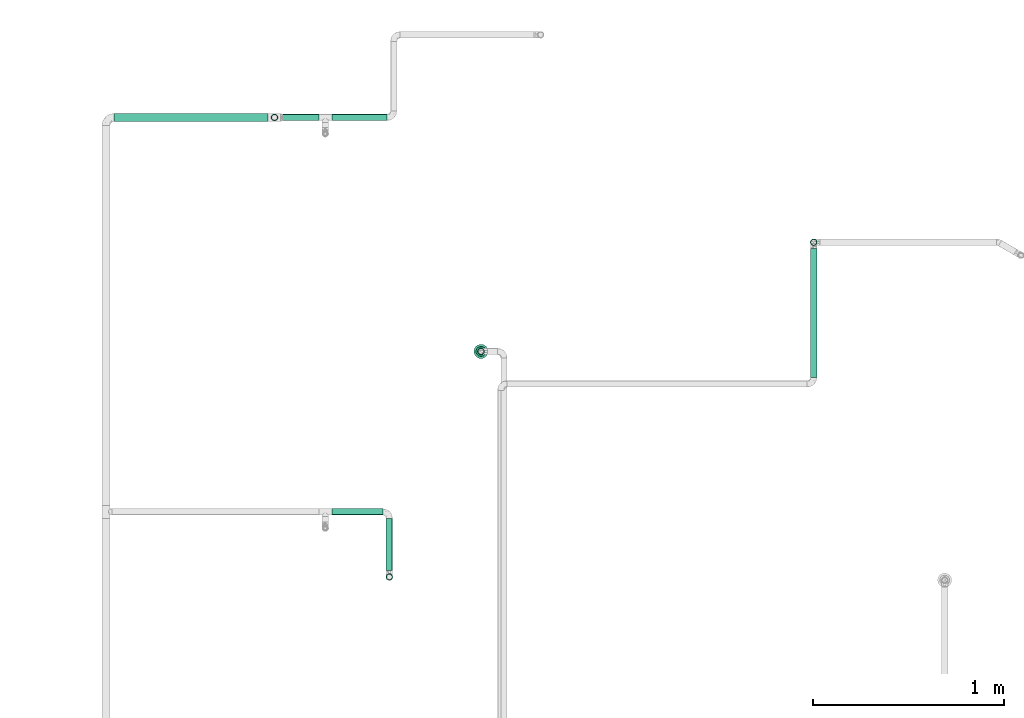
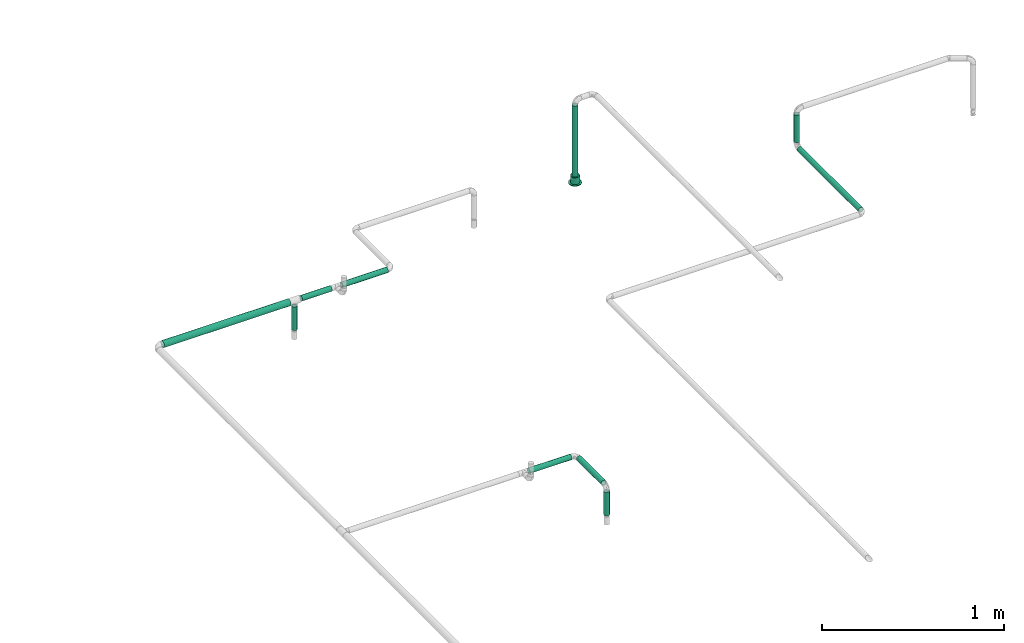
# One storey, part 22 of 95: 10 flow segments, 1 flow terminal.
"""IFC2X3 building model written with IfcOpenShell, lengths in millimetres."""

from ifc_helpers import new_model, entity, si_unit, converted_unit, derived_unit, direction, frame, origin_with_axes, origin_2d_with_axis, place, context, subcontext, project, spatial, hollow_circle, extrude, open_shell, surface_model, source, transform, mapped, type_object, element, save


model = new_model("IFC2X3")

# Units and contexts
model_context = context("Model", 3, precision=0.01, world=frame((0.0, 4.29681676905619e-09, 0.0)), true_north=direction((4.01073788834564e-13, 1.0)))
plan_context = context("Plan", 3, precision=0.01, world=frame((0.0, 4.29681676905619e-09, 0.0)), true_north=direction((4.01073788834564e-13, 1.0)))
body_context = subcontext(model_context, "Body", "Model", "MODEL_VIEW")
ifc_project = project(units=[converted_unit("PLANEANGLEUNIT", "DEGREE", entity("IfcPositiveLengthMeasure", 0.0174532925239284), si_unit("PLANEANGLEUNIT", "RADIAN"), dimensions=[0, 0, 0, 0, 0, 0, 0]), si_unit("AREAUNIT", "SQUARE_METRE"), si_unit("LENGTHUNIT", "METRE", prefix="MILLI"), si_unit("MASSUNIT", "GRAM", prefix="KILO"), si_unit("POWERUNIT", "WATT"), si_unit("PRESSUREUNIT", "PASCAL"), si_unit("FORCEUNIT", "NEWTON", prefix="KILO"), si_unit("ELECTRICVOLTAGEUNIT", "VOLT"), si_unit("ELECTRICCURRENTUNIT", "AMPERE"), si_unit("THERMODYNAMICTEMPERATUREUNIT", "DEGREE_CELSIUS"), si_unit("TIMEUNIT", "SECOND"), si_unit("VOLUMEUNIT", "CUBIC_METRE"), derived_unit("LINEARVELOCITYUNIT", [(si_unit("LENGTHUNIT", "METRE"), 1), (si_unit("TIMEUNIT", "SECOND"), -1)]), derived_unit("VOLUMETRICFLOWRATEUNIT", [(si_unit("VOLUMEUNIT", "CUBIC_METRE"), 1), (si_unit("TIMEUNIT", "SECOND"), -1)]), derived_unit("THERMALTRANSMITTANCEUNIT", [(si_unit("POWERUNIT", "WATT"), 1), (si_unit("THERMODYNAMICTEMPERATUREUNIT", "KELVIN"), -1), (si_unit("AREAUNIT", "SQUARE_METRE"), -1)]), derived_unit("SOUNDPRESSUREUNIT", [(si_unit("PRESSUREUNIT", "PASCAL"), 1)])], contexts=[model_context, plan_context])

# Site, building, storey
site_placement = place(None, frame((0.0, -4.29681676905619e-09, 0.0), z_axis=(0.0, 0.0, 1.0), x_axis=(1.0, 0.0, 0.0)))
site = spatial("IfcSite", under=ifc_project, at=site_placement, CompositionType="ELEMENT")
building_placement = place(site_placement, frame((0.0, 4.29681676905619e-09, 0.0), z_axis=(0.0, 0.0, 1.0), x_axis=(1.0, 0.0, 0.0)))
building = spatial("IfcBuilding", under=site, at=building_placement, Name="mc-building", CompositionType="ELEMENT")
storey_placement = place(building_placement, frame((0.0, 0.0, 210900.0), z_axis=(0.0, 0.0, 1.0), x_axis=(1.0, 0.0, 0.0)))
storey = spatial("IfcBuildingStorey", under=building, at=storey_placement, Name="Nivå F", CompositionType="ELEMENT", Elevation=210900.0)

# Flow segments
pipe_segment_type = type_object("IfcPipeSegmentType", Name="Stålrør normaltykke", PredefinedType="RIGIDSEGMENT")
shared_shape_1 = source(origin_with_axes(), body_context, "Body", "SweptSolid", [
    extrude(hollow_circle(Radius=16.9, WallThickness=2.0, at=origin_2d_with_axis()), frame((0.0, 0.0, 0.0), z_axis=(1.0, 0.0, 0.0), x_axis=(0.0, 1.0, 0.0)), (0.0, 0.0, 1.0), 511.9),
])
flow_segment_1_placement = place(storey_placement, frame((522678.57312, 455598.0, 4281.20000000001), z_axis=(0.0, -1.0, 0.0), x_axis=(0.0, 0.0, -1.0)))
element("IfcFlowSegment", 1, at=flow_segment_1_placement, inside=storey, type_object=pipe_segment_type, Name="Stålrør normaltykke", context=body_context, shape_type="MappedRepresentation", body=[
    mapped(shared_shape_1, transform((0.0, 0.0, 0.0), scale=1.0)),
])
shared_shape_2 = source(origin_with_axes(), body_context, "Body", "SweptSolid", [
    extrude(hollow_circle(Radius=16.9, WallThickness=2.0, at=origin_2d_with_axis()), frame((0.0, 0.0, 0.0), z_axis=(1.0, 0.0, 0.0), x_axis=(0.0, 1.0, 0.0)), (0.0, 0.0, 1.0), 266.8),
])
flow_segment_2_placement = place(storey_placement, frame((521899.21856, 454760.05824, 2600.0), z_axis=(0.0, 0.0, 1.0), x_axis=(1.0, 0.0, 0.0)))
element("IfcFlowSegment", 2, at=flow_segment_2_placement, inside=storey, type_object=pipe_segment_type, Name="Stålrør normaltykke", context=body_context, shape_type="MappedRepresentation", body=[
    mapped(shared_shape_2, transform((0.0, 0.0, 0.0), scale=1.0)),
])
shared_shape_3 = source(origin_with_axes(), body_context, "Body", "SweptSolid", [
    extrude(hollow_circle(Radius=16.9, WallThickness=2.0, at=origin_2d_with_axis()), frame((0.0, 0.0, 0.0), z_axis=(1.0, 0.0, 0.0), x_axis=(0.0, 1.0, 0.0)), (0.0, 0.0, 1.0), 158.6),
])
flow_segment_3_placement = place(storey_placement, frame((521600.0, 456820.05824, 2409.35200000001), z_axis=(1.0, 0.0, 0.0), x_axis=(0.0, 0.0, 1.0)))
element("IfcFlowSegment", 3, at=flow_segment_3_placement, inside=storey, type_object=pipe_segment_type, Name="Stålrør normaltykke", context=body_context, shape_type="MappedRepresentation", body=[
    mapped(shared_shape_3, transform((0.0, 0.0, 0.0), scale=1.0)),
])
shared_shape_4 = source(origin_with_axes(), body_context, "Body", "SweptSolid", [
    extrude(hollow_circle(Radius=16.9, WallThickness=2.0, at=origin_2d_with_axis()), frame((0.0, 0.0, 0.0), z_axis=(1.0, 0.0, 0.0), x_axis=(0.0, 1.0, 0.0)), (0.0, 0.0, 1.0), 156.8),
])
flow_segment_4_placement = place(storey_placement, frame((522200.0, 454420.05824, 2409.35200000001), z_axis=(1.0, 0.0, 0.0), x_axis=(0.0, 0.0, 1.0)))
element("IfcFlowSegment", 4, at=flow_segment_4_placement, inside=storey, type_object=pipe_segment_type, Name="Stålrør normaltykke", context=body_context, shape_type="MappedRepresentation", body=[
    mapped(shared_shape_4, transform((0.0, 0.0, 0.0), scale=1.0)),
])
shared_shape_5 = source(origin_with_axes(), body_context, "Body", "SweptSolid", [
    extrude(hollow_circle(Radius=21.2, WallThickness=2.0, at=origin_2d_with_axis()), frame((0.0, 0.0, 0.0), z_axis=(1.0, 0.0, 0.0), x_axis=(0.0, 1.0, 0.0)), (0.0, 0.0, 1.0), 804.1),
])
flow_segment_5_placement = place(storey_placement, frame((520762.13241, 456820.05824, 2600.0), z_axis=(0.0, 0.0, 1.0), x_axis=(1.0, 0.0, 0.0)))
element("IfcFlowSegment", 5, at=flow_segment_5_placement, inside=storey, type_object=pipe_segment_type, Name="Stålrør normaltykke", context=body_context, shape_type="MappedRepresentation", body=[
    mapped(shared_shape_5, transform((0.0, 0.0, 0.0), scale=1.0)),
])
shared_shape_6 = source(origin_with_axes(), body_context, "Body", "SweptSolid", [
    extrude(hollow_circle(Radius=16.9, WallThickness=2.0, at=origin_2d_with_axis()), frame((0.0, 0.0, 0.0), z_axis=(1.0, 0.0, 0.0), x_axis=(0.0, 1.0, 0.0)), (0.0, 0.0, 1.0), 289.4),
])
flow_segment_6_placement = place(storey_placement, frame((521899.21856, 456820.05824, 2600.0), z_axis=(0.0, 0.0, 1.0), x_axis=(1.0, 0.0, 0.0)))
element("IfcFlowSegment", 6, at=flow_segment_6_placement, inside=storey, type_object=pipe_segment_type, Name="Stålrør normaltykke", context=body_context, shape_type="MappedRepresentation", body=[
    mapped(shared_shape_6, transform((0.0, 0.0, 0.0), scale=1.0)),
])
shared_shape_7 = source(origin_with_axes(), body_context, "Body", "SweptSolid", [
    extrude(hollow_circle(Radius=16.9, WallThickness=2.0, at=origin_2d_with_axis()), frame((0.0, 0.0, 0.0), z_axis=(1.0, 0.0, 0.0), x_axis=(0.0, 1.0, 0.0)), (0.0, 0.0, 1.0), 272.4),
])
flow_segment_7_placement = place(storey_placement, frame((522200.0, 454453.85824, 2600.0), z_axis=(0.0, 0.0, 1.0), x_axis=(0.0, 1.0, 0.0)))
element("IfcFlowSegment", 7, at=flow_segment_7_placement, inside=storey, type_object=pipe_segment_type, Name="Stålrør normaltykke", context=body_context, shape_type="MappedRepresentation", body=[
    mapped(shared_shape_7, transform((0.0, 0.0, 0.0), scale=1.0)),
])
shared_shape_8 = source(origin_with_axes(), body_context, "Body", "SweptSolid", [
    extrude(hollow_circle(Radius=16.9, WallThickness=2.0, at=origin_2d_with_axis()), frame((0.0, 0.0, 0.0), z_axis=(1.0, 0.0, 0.0), x_axis=(0.0, 1.0, 0.0)), (0.0, 0.0, 1.0), 672.4),
])
flow_segment_8_placement = place(storey_placement, frame((524415.97009, 455461.84949, 3046.86988000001), z_axis=(0.0, 0.0, 1.0), x_axis=(0.0, 1.0, 0.0)))
element("IfcFlowSegment", 8, at=flow_segment_8_placement, inside=storey, type_object=pipe_segment_type, Name="Stålrør normaltykke", context=body_context, shape_type="MappedRepresentation", body=[
    mapped(shared_shape_8, transform((0.0, 0.0, 0.0), scale=1.0)),
])
shared_shape_9 = source(origin_with_axes(), body_context, "Body", "SweptSolid", [
    extrude(hollow_circle(Radius=16.9, WallThickness=2.0, at=origin_2d_with_axis()), frame((0.0, 0.0, 0.0), z_axis=(1.0, 0.0, 0.0), x_axis=(0.0, 1.0, 0.0)), (0.0, 0.0, 1.0), 185.5),
])
flow_segment_9_placement = place(storey_placement, frame((524415.97009, 456168.04949, 3080.66988), z_axis=(1.0, 0.0, 0.0), x_axis=(0.0, 0.0, 1.0)))
element("IfcFlowSegment", 9, at=flow_segment_9_placement, inside=storey, type_object=pipe_segment_type, Name="Stålrør normaltykke", context=body_context, shape_type="MappedRepresentation", body=[
    mapped(shared_shape_9, transform((0.0, 0.0, 0.0), scale=1.0)),
])
shared_shape_10 = source(origin_with_axes(), body_context, "Body", "SweptSolid", [
    extrude(hollow_circle(Radius=16.9, WallThickness=2.0, at=origin_2d_with_axis()), frame((0.0, 0.0, 0.0), z_axis=(1.0, 0.0, 0.0), x_axis=(0.0, 1.0, 0.0)), (0.0, 0.0, 1.0), 189.2),
])
flow_segment_10_placement = place(storey_placement, frame((521831.61856, 456820.05824, 2600.0), z_axis=(0.0, 0.0, 1.0), x_axis=(-1.0, 0.0, 0.0)))
element("IfcFlowSegment", 10, at=flow_segment_10_placement, inside=storey, type_object=pipe_segment_type, Name="Stålrør normaltykke", context=body_context, shape_type="MappedRepresentation", body=[
    mapped(shared_shape_10, transform((0.0, 0.0, 0.0), scale=1.0)),
])

# Flow terminal
fire_suppression_terminal_type = type_object("IfcFireSuppressionTerminalType", Name="68DGR-STD-SKJULT I HIMLING", PredefinedType="NOTDEFINED")
shared_shape_11 = source(origin_with_axes(), body_context, "Body", "SurfaceModel", [
    surface_model("IfcShellBasedSurfaceModel", [(6.72929, -25.11407, 0.0), (13.0, -22.51666, 0.0), (18.38478, -18.38478, 0.0), (-25.11407, -6.72929, 0.0), (25.11407, -6.72929, 0.0), (26.0, 0.0, 0.0), (22.51666, -13.0, 0.0), (-6.72929, -25.11407, 0.0), (-13.0, -22.51666, 0.0), (0.0, -26.0, 0.0), (-18.38478, -18.38478, 0.0), (-22.51666, -13.0, 0.0), (25.11407, 6.72929, 0.0), (22.51666, 13.0, 0.0), (18.38478, 18.38478, 0.0), (13.0, 22.51666, 0.0), (6.72929, 25.11407, 0.0), (0.0, 26.0, 0.0), (-18.38478, 18.38478, 0.0), (-26.0, 0.0, 0.0), (-22.51666, 13.0, 0.0), (-25.11407, 6.72929, 0.0), (-6.72929, 25.11407, 0.0), (-13.0, 22.51666, 0.0), (0.0, 26.0, -46.0), (6.72929, 25.11407, -46.0), (13.0, 22.51666, -46.0), (-25.11407, -6.72929, -46.0), (18.38478, 18.38478, -46.0), (22.51666, 13.0, -46.0), (25.11407, 6.72929, -46.0), (-18.38478, 18.38478, -46.0), (-6.72929, 25.11407, -46.0), (-13.0, 22.51666, -46.0), (-22.51666, 13.0, -46.0), (-26.0, 0.0, -46.0), (-25.11407, 6.72929, -46.0), (25.11407, -6.72929, -46.0), (18.38478, -18.38478, -46.0), (22.51666, -13.0, -46.0), (13.0, -22.51666, -46.0), (6.72929, -25.11407, -46.0), (-18.38478, -18.38478, -46.0), (-22.51666, -13.0, -46.0), (-13.0, -22.51666, -46.0), (-6.72929, -25.11407, -46.0), (0.0, -26.0, -46.0), (26.0, 0.0, -46.0), (35.73926, -9.57631, 5.0), (9.57631, -35.73926, 5.0), (18.5, -32.04294, 5.0), (32.04294, -18.5, 5.0), (26.16295, -26.16295, 5.0), (-18.5, -32.04294, 5.0), (-26.16295, -26.16295, 5.0), (37.0, 0.0, 5.0), (0.0, -37.0, 5.0), (-9.57631, -35.73926, 5.0), (-35.73926, -9.57631, 5.0), (-32.04294, -18.5, 5.0), (35.73926, 9.57631, 5.0), (0.0, 37.0, 5.0), (32.04294, 18.5, 5.0), (18.5, 32.04294, 5.0), (26.16295, 26.16295, 5.0), (9.57631, 35.73926, 5.0), (-9.57631, 35.73926, 5.0), (-35.73926, 9.57631, 5.0), (-26.16295, 26.16295, 5.0), (-32.04294, 18.5, 5.0), (-37.0, 0.0, 5.0), (-18.5, 32.04294, 5.0), (0.0, 37.0, 0.0), (9.57631, 35.73926, 0.0), (18.5, 32.04294, 0.0), (32.04294, 18.5, 0.0), (-26.16295, 26.16295, 0.0), (26.16295, 26.16295, 0.0), (35.73926, -9.57631, 0.0), (-9.57631, 35.73926, 0.0), (-18.5, 32.04294, 0.0), (-35.73926, 9.57631, 0.0), (-32.04294, 18.5, 0.0), (-26.16295, -26.16295, 0.0), (-37.0, 0.0, 0.0), (35.73926, 9.57631, 0.0), (37.0, 0.0, 0.0), (9.57631, -35.73926, 0.0), (18.5, -32.04294, 0.0), (32.04294, -18.5, 0.0), (26.16295, -26.16295, 0.0), (-18.5, -32.04294, 0.0), (-35.73926, -9.57631, 0.0), (-32.04294, -18.5, 0.0), (0.0, -37.0, 0.0), (-9.57631, -35.73926, 0.0)], [open_shell([[[0, 1, 2]], [[3, 0, 2]], [[4, 5, 2]], [[4, 2, 6]], [[3, 2, 5]], [[7, 3, 8]], [[7, 9, 0]], [[10, 3, 11]], [[3, 10, 8]], [[0, 3, 7]], [[5, 12, 3]], [[12, 13, 14]], [[12, 14, 15]], [[15, 16, 17]], [[17, 3, 15]], [[17, 18, 3]], [[19, 20, 21]], [[19, 3, 20]], [[18, 22, 23]], [[3, 18, 20]], [[17, 22, 18]], [[12, 15, 3]], [[24, 25, 26]], [[27, 24, 26]], [[28, 29, 30]], [[28, 30, 26]], [[27, 31, 24]], [[32, 31, 33]], [[32, 24, 31]], [[34, 35, 36]], [[35, 34, 31]], [[31, 27, 35]], [[27, 26, 30]], [[30, 37, 38]], [[38, 37, 39]], [[38, 40, 41]], [[38, 27, 30]], [[41, 27, 38]], [[27, 42, 43]], [[42, 27, 44]], [[27, 45, 44]], [[27, 41, 45]], [[41, 46, 45]], [[37, 30, 47]], [[3, 27, 43]], [[42, 11, 43]], [[8, 44, 45]], [[42, 44, 10]], [[7, 45, 46]], [[19, 35, 3]], [[35, 27, 3]], [[43, 11, 3]], [[42, 10, 11]], [[8, 10, 44]], [[45, 7, 8]], [[46, 9, 7]], [[0, 41, 40]], [[38, 1, 40]], [[6, 39, 37]], [[38, 39, 2]], [[4, 37, 47]], [[41, 0, 9]], [[40, 1, 0]], [[38, 2, 1]], [[39, 6, 2]], [[4, 6, 37]], [[47, 5, 4]], [[41, 9, 46]], [[30, 12, 47]], [[29, 13, 30]], [[25, 24, 16]], [[28, 14, 29]], [[30, 13, 12]], [[12, 5, 47]], [[15, 26, 16]], [[26, 15, 14]], [[26, 25, 16]], [[14, 13, 29]], [[14, 28, 26]], [[24, 17, 16]], [[22, 32, 33]], [[31, 23, 33]], [[20, 34, 36]], [[31, 34, 18]], [[21, 36, 35]], [[32, 22, 17]], [[33, 23, 22]], [[31, 18, 23]], [[34, 20, 18]], [[21, 20, 36]], [[35, 19, 21]], [[32, 17, 24]], [[48, 49, 50]], [[51, 50, 52]], [[49, 48, 53]], [[48, 50, 51]], [[54, 48, 55]], [[56, 53, 57]], [[56, 49, 53]], [[54, 58, 59]], [[54, 53, 48]], [[58, 54, 55]], [[55, 60, 58]], [[61, 60, 62]], [[63, 62, 64]], [[63, 65, 61]], [[63, 61, 62]], [[60, 61, 66]], [[67, 68, 69]], [[70, 58, 67]], [[68, 66, 71]], [[67, 60, 68]], [[60, 66, 68]], [[67, 58, 60]], [[72, 73, 74]], [[72, 74, 75]], [[72, 75, 76]], [[75, 74, 77]], [[78, 76, 75]], [[79, 76, 80]], [[79, 72, 76]], [[76, 81, 82]], [[76, 78, 81]], [[81, 83, 84]], [[85, 86, 75]], [[81, 78, 87]], [[88, 78, 89]], [[88, 87, 78]], [[88, 89, 90]], [[91, 81, 87]], [[92, 83, 93]], [[84, 83, 92]], [[91, 94, 95]], [[83, 81, 91]], [[94, 91, 87]], [[78, 75, 86]], [[92, 58, 84]], [[93, 59, 92]], [[53, 83, 91]], [[93, 83, 54]], [[57, 91, 95]], [[92, 59, 58]], [[58, 70, 84]], [[57, 53, 91]], [[54, 83, 53]], [[54, 59, 93]], [[56, 57, 95]], [[95, 94, 56]], [[87, 49, 94]], [[88, 50, 87]], [[51, 90, 89]], [[88, 90, 52]], [[48, 89, 78]], [[88, 52, 50]], [[50, 49, 87]], [[55, 48, 78]], [[51, 89, 48]], [[51, 52, 90]], [[86, 55, 78]], [[94, 49, 56]], [[85, 60, 86]], [[75, 62, 85]], [[63, 77, 74]], [[75, 77, 64]], [[65, 74, 73]], [[85, 62, 60]], [[60, 55, 86]], [[65, 63, 74]], [[64, 77, 63]], [[64, 62, 75]], [[61, 65, 73]], [[73, 72, 61]], [[79, 66, 72]], [[80, 71, 79]], [[69, 76, 82]], [[80, 76, 68]], [[67, 82, 81]], [[80, 68, 71]], [[71, 66, 79]], [[70, 67, 81]], [[69, 82, 67]], [[69, 68, 76]], [[84, 70, 81]], [[72, 66, 61]]])]),
])
flow_terminal_placement = place(storey_placement, frame((522678.57312, 455598.0, 3759.89999999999), z_axis=(0.0, 0.0, -1.0), x_axis=(-1.0, 0.0, 0.0)))
element("IfcFlowTerminal", 11, at=flow_terminal_placement, inside=storey, type_object=fire_suppression_terminal_type, Name="68DGR-STD-SKJULT I HIMLING", context=body_context, shape_type="MappedRepresentation", body=[
    mapped(shared_shape_11, transform((0.0, 0.0, 0.0), scale=1.0)),
])

save(model, "model.ifc")
